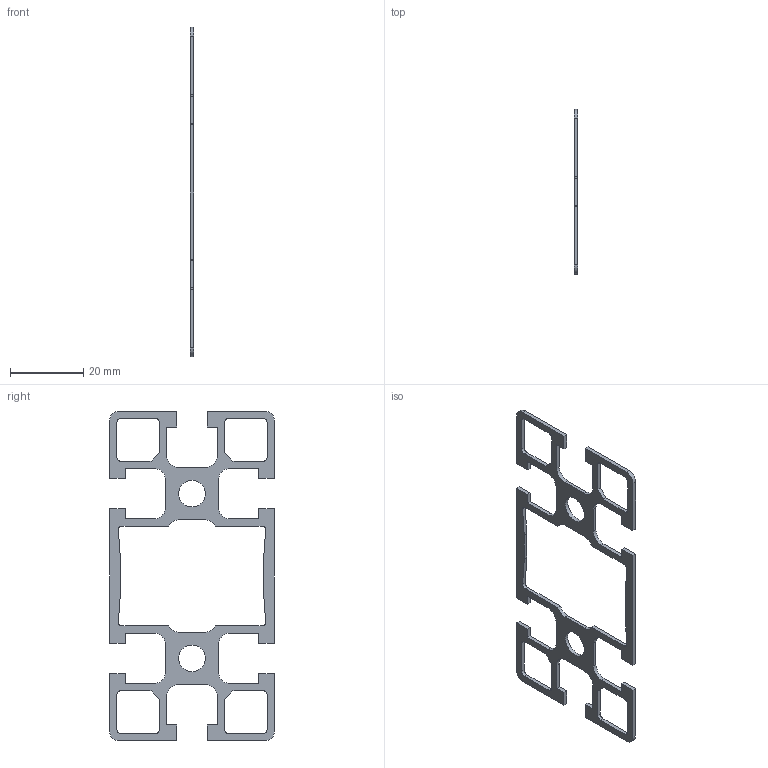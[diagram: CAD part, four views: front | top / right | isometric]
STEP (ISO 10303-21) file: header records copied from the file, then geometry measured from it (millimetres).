
FILE_DESCRIPTION(/* description */ ('STEP AP214'),/* implementation_level */ '2;1');
FILE_NAME(/* name */ 'C:\Users\Stefan.Nesic\Desktop\PS4590.stp',/* time_stamp */ '2022-07-25T11:38:49+02:00',/* author */ ('stefan.nesic'),/* organization */ (''),/* preprocessor_version */ 'ST-DEVELOPER v18.1',/* originating_system */ 'Autodesk Inventor 2021',/* authorisation */ '');
FILE_SCHEMA (('CONFIG_CONTROL_DESIGN'));
Length unit declared in the file: millimetre
Products named in the file (1): 084.101.045
Bounding box: 1 x 45 x 90 mm (x, y, z)
Volume: 1225.2 mm3; surface area: 3306 mm2
Topology: 1 solids, 1 shells, 124 faces, 366 edges, 244 vertices
Faces by surface type: plane 86, cylinder 38
Full cylindrical faces by diameter (mm): 7.3 x2
Entity records: 4195 total; most frequent: CARTESIAN_POINT 735, ORIENTED_EDGE 732, DIRECTION 692, EDGE_CURVE 366, LINE 290, VECTOR 290, VERTEX_POINT 244, AXIS2_PLACEMENT_3D 201
